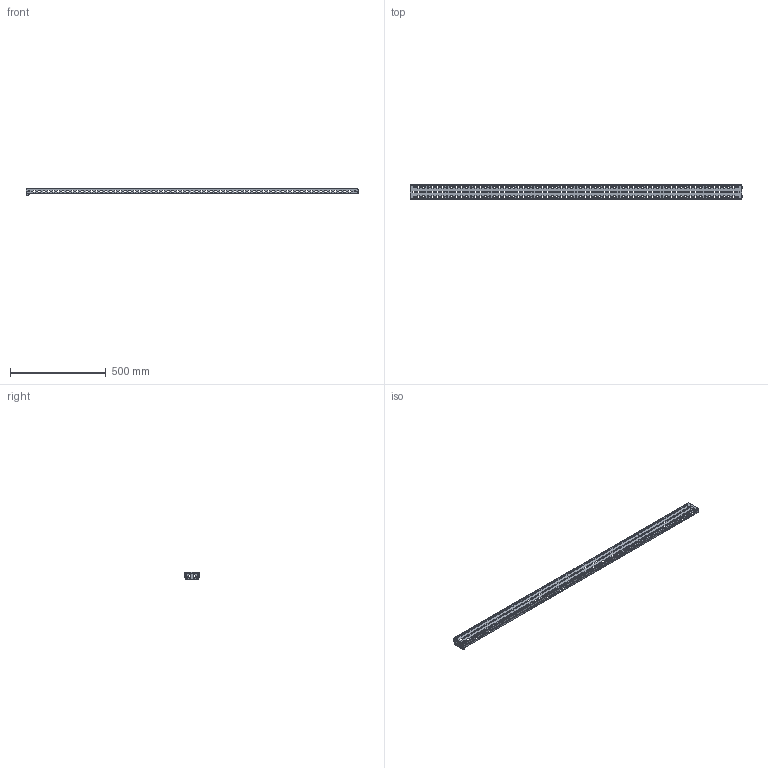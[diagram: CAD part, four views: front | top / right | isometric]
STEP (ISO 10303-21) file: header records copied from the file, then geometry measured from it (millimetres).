
FILE_DESCRIPTION(('STEP AP203'), '1');
FILE_NAME('MG 180.09 L Ðåéêà ìîíòàæíàÿ v2', '2021-05-20T08:07:39', ('UNSPECIFIED'), ('UNSPECIFIED'), 'ASCON STEP Converter 1.3', 'ASCON Math Kernel', '');
FILE_SCHEMA(('CONFIG_CONTROL_DESIGN'));
Length unit declared in the file: millimetre
Products named in the file (3): MG 180.09 L 01.001 Ðåéêà ìîíòàæíàÿ v2; MG 09 L 01.002 Êðîíøòåéí ðåéêè ìîíòàæíîé v2
Assembly tree (3 placements, depth 2):
  (unnamed)
    MG 180.09 L 01.001 Ðåéêà ìîíòàæíàÿ v2
    MG 09 L 01.002 Êðîíøòåéí ðåéêè ìîíòàæíîé v2  x2
Bounding box: 1737.45 x 74.15 x 39 mm (x, y, z)
Volume: 379248.2 mm3; surface area: 423017.8 mm2
Topology: 3 solids, 3 shells, 3206 faces, 9520 edges, 6320 vertices
Faces by surface type: cylinder 1760, plane 1438, bspline 8
Full cylindrical faces by diameter (mm): 4 x340, 4.2 x24, 6 x4, 6.5 x8
Entity records: 133668 total; most frequent: CARTESIAN_POINT 19290, DIRECTION 18710, ORIENTED_EDGE 17984, EDGE_CURVE 8992, AXIS2_PLACEMENT_3D 6590, VERTEX_POINT 6220, LINE 5530, VECTOR 5530
